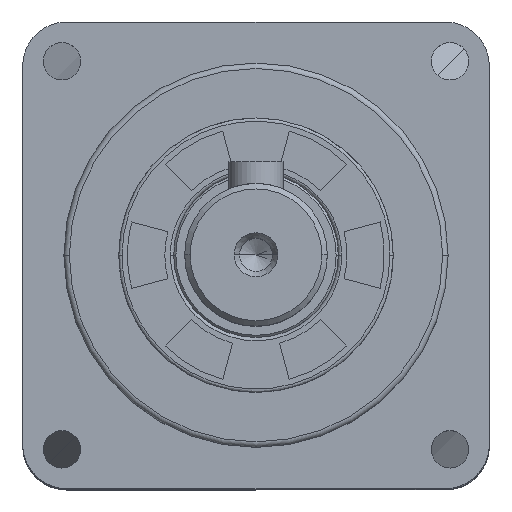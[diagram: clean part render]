
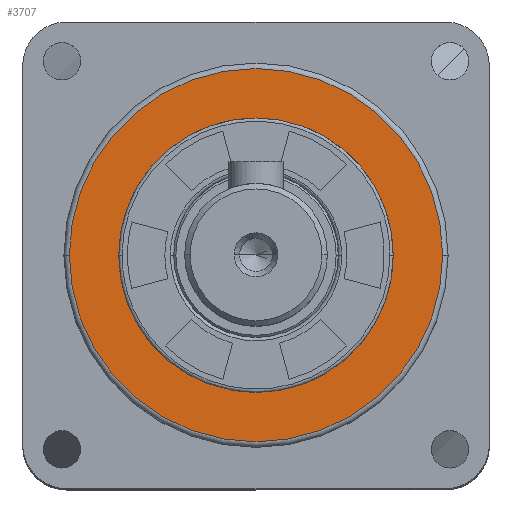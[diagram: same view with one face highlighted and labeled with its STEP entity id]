
A CAD part, top view. The second image highlights one B-rep face of the part: STEP entity #3707.
In plain terms, the highlighted planar face has unit normal (0, 0, 1).
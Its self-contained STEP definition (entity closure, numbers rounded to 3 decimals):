
#60 = EDGE_CURVE ( 'NONE', #4964, #24109, #22746, .T. ) ;
#377 = AXIS2_PLACEMENT_3D ( 'NONE', #3277, #20517, #16778 ) ;
#708 = CARTESIAN_POINT ( 'NONE',  ( 0., 0., 14.8 ) ) ;
#796 = DIRECTION ( 'NONE',  ( 1., 0., 0. ) ) ;
#886 = CIRCLE ( 'NONE', #12219, 17. ) ;
#1015 = CARTESIAN_POINT ( 'NONE',  ( 0., 0., 14.8 ) ) ;
#1186 = DIRECTION ( 'NONE',  ( 0., 0., 1. ) ) ;
#2975 = DIRECTION ( 'NONE',  ( 1., 0., 0. ) ) ;
#3077 = CIRCLE ( 'NONE', #377, 12.5 ) ;
#3078 = ORIENTED_EDGE ( 'NONE', *, *, #11992, .F. ) ;
#3237 = DIRECTION ( 'NONE',  ( 0., 0., 1. ) ) ;
#3277 = CARTESIAN_POINT ( 'NONE',  ( 0., 0., 14.8 ) ) ;
#3411 = CARTESIAN_POINT ( 'NONE',  ( 12.5, 0., 14.8 ) ) ;
#3707 = ADVANCED_FACE ( 'NONE', ( #14752, #17165 ), #19916, .T. ) ;
#3952 = VERTEX_POINT ( 'NONE', #22684 ) ;
#4382 = CARTESIAN_POINT ( 'NONE',  ( 0., 0., 14.8 ) ) ;
#4964 = VERTEX_POINT ( 'NONE', #11217 ) ;
#6132 = AXIS2_PLACEMENT_3D ( 'NONE', #4382, #17845, #6223 ) ;
#6223 = DIRECTION ( 'NONE',  ( 1., 0., 0. ) ) ;
#6322 = ORIENTED_EDGE ( 'NONE', *, *, #13898, .T. ) ;
#8217 = EDGE_CURVE ( 'NONE', #3952, #11354, #16168, .T. ) ;
#11217 = CARTESIAN_POINT ( 'NONE',  ( 17., 0., 14.8 ) ) ;
#11354 = VERTEX_POINT ( 'NONE', #3411 ) ;
#11783 = EDGE_LOOP ( 'NONE', ( #3078, #14049 ) ) ;
#11992 = EDGE_CURVE ( 'NONE', #11354, #3952, #3077, .T. ) ;
#12219 = AXIS2_PLACEMENT_3D ( 'NONE', #22253, #3237, #16819 ) ;
#13239 = EDGE_LOOP ( 'NONE', ( #19306, #6322 ) ) ;
#13898 = EDGE_CURVE ( 'NONE', #24109, #4964, #886, .T. ) ;
#14049 = ORIENTED_EDGE ( 'NONE', *, *, #8217, .F. ) ;
#14246 = DIRECTION ( 'NONE',  ( 0., 0., 1. ) ) ;
#14752 = FACE_OUTER_BOUND ( 'NONE', #13239, .T. ) ;
#16168 = CIRCLE ( 'NONE', #6132, 12.5 ) ;
#16778 = DIRECTION ( 'NONE',  ( 1., 0., 0. ) ) ;
#16819 = DIRECTION ( 'NONE',  ( 1., 0., 0. ) ) ;
#17165 = FACE_BOUND ( 'NONE', #11783, .T. ) ;
#17845 = DIRECTION ( 'NONE',  ( 0., 0., 1. ) ) ;
#19306 = ORIENTED_EDGE ( 'NONE', *, *, #60, .T. ) ;
#19916 = PLANE ( 'NONE',  #23480 ) ;
#20517 = DIRECTION ( 'NONE',  ( 0., 0., 1. ) ) ;
#22253 = CARTESIAN_POINT ( 'NONE',  ( 0., 0., 14.8 ) ) ;
#22684 = CARTESIAN_POINT ( 'NONE',  ( -12.5, 0., 14.8 ) ) ;
#22746 = CIRCLE ( 'NONE', #24346, 17. ) ;
#23480 = AXIS2_PLACEMENT_3D ( 'NONE', #708, #14246, #796 ) ;
#24109 = VERTEX_POINT ( 'NONE', #24386 ) ;
#24346 = AXIS2_PLACEMENT_3D ( 'NONE', #1015, #1186, #2975 ) ;
#24386 = CARTESIAN_POINT ( 'NONE',  ( -17., 0., 14.8 ) ) ;
